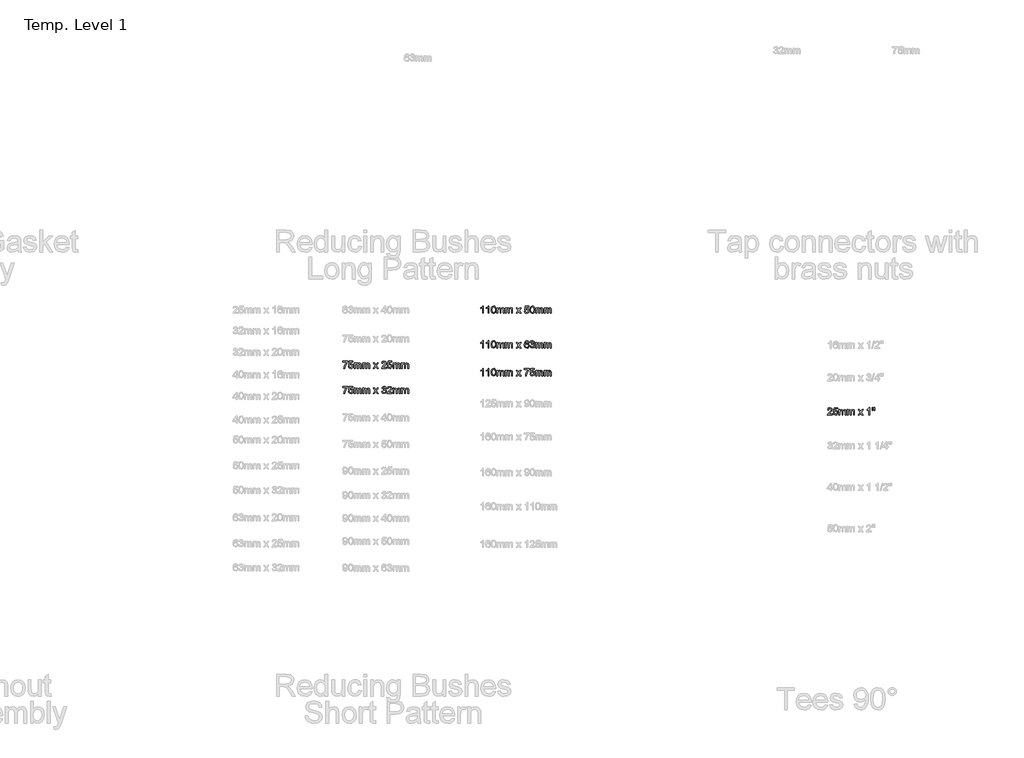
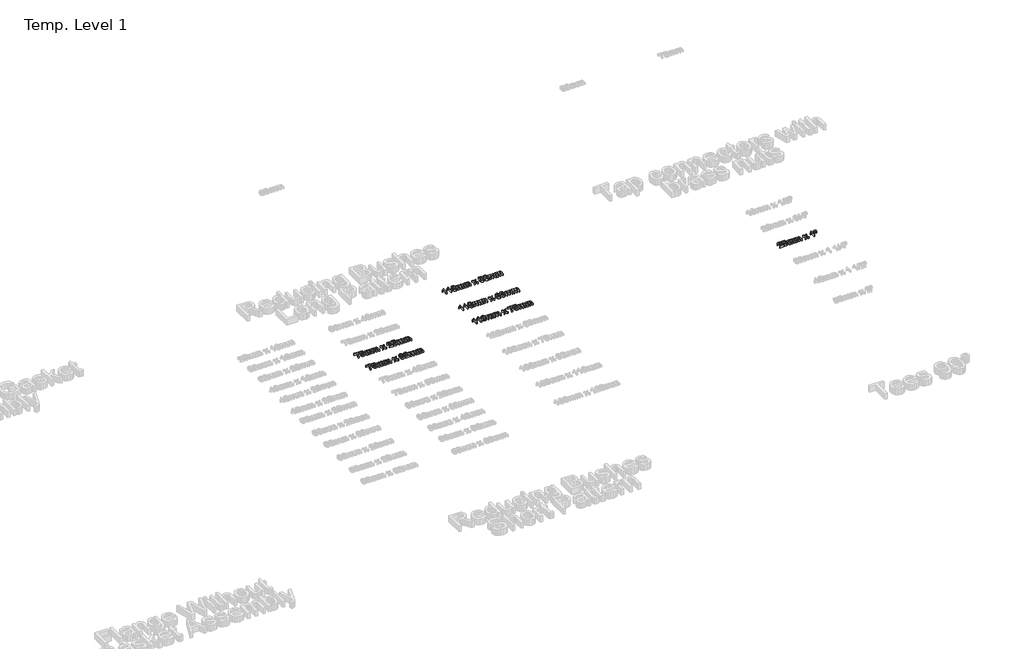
# One storey, part 48 of 62: 6 proxies.
"""IFC4 building model written with IfcOpenShell, lengths in millimetres."""

from ifc_helpers import new_model, si_unit, origin, origin_with_axes, place, context, project, spatial, polyline, outline, extrude, element, save

model = new_model("IFC4")

# Units and contexts
model_context = context("Model", 3, world=origin())
ifc_project = project(units=[si_unit("LENGTHUNIT", "METRE", prefix="MILLI")], contexts=[model_context])

# Site, building, storey
site = spatial("IfcSite", under=ifc_project)
building = spatial("IfcBuilding", under=site)
storey = spatial("IfcBuildingStorey", under=building, Name="Temp. Level 1", Elevation=0.0)

# Proxies
placement = place(None, origin())
element("IfcBuildingElementProxy", 1, Name="50mm Arial", ObjectType="50mm Arial", at=placement, inside=storey, context=model_context, shape_type="SweptSolid", body=[
    extrude(outline(polyline([(24079.3793416, -4723.2165118), (24079.3793416, -4717.0626657), (24111.6870339, -4717.0626657), (24111.6870339, -4722.0386272), (24102.5223705, -4735.2778099), (24095.5091493, -4752.1468003), (24093.2254955, -4765.5242041), (24087.0716493, -4765.5242041), (24089.5175628, -4751.6419926), (24096.2303032, -4735.9508868), (24105.5331878, -4723.2165118), (24079.3793416, -4723.2165118)])), origin_with_axes(), (0.0, 0.0, 1.0), 15.0),
    extrude(outline(polyline([(24117.0716493, -4752.447281), (24123.2254955, -4751.6780503), (24126.326457, -4758.0181945), (24132.7567455, -4760.1395887), (24140.4730916, -4757.1888676), (24143.2254955, -4749.3583387), (24140.6473705, -4742.0506464), (24132.8528993, -4739.370358), (24127.4502551, -4740.4400695), (24123.9947262, -4743.2165118), (24117.8408801, -4742.447281), (24123.2254955, -4717.0626657), (24147.0716493, -4717.0626657), (24147.0716493, -4723.2165118), (24128.201457, -4723.2165118), (24125.5692455, -4736.7742041), (24134.5716493, -4733.2165118), (24145.0944859, -4737.6275695), (24149.3793416, -4748.9737233), (24145.5211685, -4760.3919926), (24139.9803032, -4764.8180743), (24132.732707, -4766.2934349), (24121.873332, -4762.5013676), (24117.0716493, -4752.447281)])), origin_with_axes(), (0.0, 0.0, 1.0), 15.0),
    extrude(outline(polyline([(24156.3024185, -4765.5242041), (24156.3024185, -4729.370358), (24162.4562647, -4729.370358), (24162.4562647, -4735.3198772), (24166.6870339, -4730.4460791), (24172.7086685, -4728.6011272), (24178.8745339, -4730.4821368), (24182.263957, -4735.7525695), (24187.0656397, -4730.3889878), (24193.1293416, -4728.6011272), (24201.1762166, -4731.5758868), (24203.9947262, -4740.7405503), (24203.9947262, -4765.5242041), (24197.8408801, -4765.5242041), (24197.8408801, -4743.384781), (24197.2699666, -4738.2465599), (24195.2026589, -4735.7165118), (24191.6870339, -4734.7549733), (24185.6353512, -4737.2189157), (24183.2254955, -4745.1155503), (24183.2254955, -4765.5242041), (24177.0716493, -4765.5242041), (24177.0716493, -4742.6996849), (24175.6473705, -4736.7381464), (24170.9778993, -4734.7549733), (24166.4226109, -4736.0770887), (24163.3937647, -4739.947281), (24162.4562647, -4747.291031), (24162.4562647, -4765.5242041), (24156.3024185, -4765.5242041)])), origin_with_axes(), (0.0, 0.0, 1.0), 15.0),
    extrude(outline(polyline([(24213.2254955, -4765.5242041), (24213.2254955, -4729.370358), (24219.3793416, -4729.370358), (24219.3793416, -4735.3198772), (24223.6101109, -4730.4460791), (24229.6317455, -4728.6011272), (24235.7976109, -4730.4821368), (24239.1870339, -4735.7525695), (24243.9887166, -4730.3889878), (24250.0524185, -4728.6011272), (24258.0992935, -4731.5758868), (24260.9178032, -4740.7405503), (24260.9178032, -4765.5242041), (24254.763957, -4765.5242041), (24254.763957, -4743.384781), (24254.1930435, -4738.2465599), (24252.1257359, -4735.7165118), (24248.6101109, -4734.7549733), (24242.5584282, -4737.2189157), (24240.1485724, -4745.1155503), (24240.1485724, -4765.5242041), (24233.9947262, -4765.5242041), (24233.9947262, -4742.6996849), (24232.5704474, -4736.7381464), (24227.9009762, -4734.7549733), (24223.3456878, -4736.0770887), (24220.3168416, -4739.947281), (24219.3793416, -4747.291031), (24219.3793416, -4765.5242041), (24213.2254955, -4765.5242041)])), origin_with_axes(), (0.0, 0.0, 1.0), 15.0),
    extrude(outline(polyline([(24285.5331878, -4765.5242041), (24298.6822262, -4747.3511272), (24286.3024185, -4729.370358), (24293.7062647, -4729.370358), (24299.6798224, -4738.0242041), (24302.4682839, -4742.1107426), (24304.8841493, -4738.7693964), (24311.6870339, -4729.370358), (24319.0908801, -4729.370358), (24306.0860724, -4747.3511272), (24318.6101109, -4765.5242041), (24311.2062647, -4765.5242041), (24303.670207, -4754.5987233), (24302.2879955, -4752.603531), (24292.9370339, -4765.5242041), (24285.5331878, -4765.5242041)])), origin_with_axes(), (0.0, 0.0, 1.0), 15.0),
    extrude(outline(polyline([(24373.2254955, -4759.370358), (24373.2254955, -4765.5242041), (24340.9178032, -4765.5242041), (24341.5788609, -4761.2814157), (24345.3168416, -4754.7489637), (24353.0211685, -4747.6155503), (24363.6461685, -4737.3631464), (24366.3024185, -4730.3919926), (24363.7964089, -4724.7489637), (24357.2519378, -4722.447281), (24350.4310243, -4724.6948772), (24347.8408801, -4730.9088195), (24341.6870339, -4730.1395887), (24346.404582, -4719.839108), (24357.3841493, -4716.2934349), (24368.3997743, -4720.2357426), (24372.4562647, -4730.0193964), (24371.3625147, -4735.854733), (24367.7266974, -4741.8883868), (24358.9105916, -4750.3198772), (24351.8312647, -4756.2393483), (24349.0548224, -4759.370358), (24373.2254955, -4759.370358)])), origin_with_axes(), (0.0, 0.0, 1.0), 15.0),
    extrude(outline(polyline([(24379.3793416, -4752.447281), (24385.5331878, -4751.6780503), (24388.6341493, -4758.0181945), (24395.0644378, -4760.1395887), (24402.7807839, -4757.1888676), (24405.5331878, -4749.3583387), (24402.9550628, -4742.0506464), (24395.1605916, -4739.370358), (24389.7579474, -4740.4400695), (24386.3024185, -4743.2165118), (24380.1485724, -4742.447281), (24385.5331878, -4717.0626657), (24409.3793416, -4717.0626657), (24409.3793416, -4723.2165118), (24390.5091493, -4723.2165118), (24387.8769378, -4736.7742041), (24396.8793416, -4733.2165118), (24407.4021782, -4737.6275695), (24411.6870339, -4748.9737233), (24407.8288609, -4760.3919926), (24402.2879955, -4764.8180743), (24395.0403993, -4766.2934349), (24384.1810243, -4762.5013676), (24379.3793416, -4752.447281)])), origin_with_axes(), (0.0, 0.0, 1.0), 15.0),
    extrude(outline(polyline([(24418.6101109, -4765.5242041), (24418.6101109, -4729.370358), (24424.763957, -4729.370358), (24424.763957, -4735.3198772), (24428.9947262, -4730.4460791), (24435.0163609, -4728.6011272), (24441.1822262, -4730.4821368), (24444.5716493, -4735.7525695), (24449.373332, -4730.3889878), (24455.4370339, -4728.6011272), (24463.4839089, -4731.5758868), (24466.3024185, -4740.7405503), (24466.3024185, -4765.5242041), (24460.1485724, -4765.5242041), (24460.1485724, -4743.384781), (24459.5776589, -4738.2465599), (24457.5103512, -4735.7165118), (24453.9947262, -4734.7549733), (24447.9430435, -4737.2189157), (24445.5331878, -4745.1155503), (24445.5331878, -4765.5242041), (24439.3793416, -4765.5242041), (24439.3793416, -4742.6996849), (24437.9550628, -4736.7381464), (24433.2855916, -4734.7549733), (24428.7303032, -4736.0770887), (24425.701457, -4739.947281), (24424.763957, -4747.291031), (24424.763957, -4765.5242041), (24418.6101109, -4765.5242041)])), origin_with_axes(), (0.0, 0.0, 1.0), 15.0),
    extrude(outline(polyline([(24475.5331878, -4765.5242041), (24475.5331878, -4729.370358), (24481.6870339, -4729.370358), (24481.6870339, -4735.3198772), (24485.9178032, -4730.4460791), (24491.9394378, -4728.6011272), (24498.1053032, -4730.4821368), (24501.4947262, -4735.7525695), (24506.2964089, -4730.3889878), (24512.3601109, -4728.6011272), (24520.4069859, -4731.5758868), (24523.2254955, -4740.7405503), (24523.2254955, -4765.5242041), (24517.0716493, -4765.5242041), (24517.0716493, -4743.384781), (24516.5007359, -4738.2465599), (24514.4334282, -4735.7165118), (24510.9178032, -4734.7549733), (24504.8661205, -4737.2189157), (24502.4562647, -4745.1155503), (24502.4562647, -4765.5242041), (24496.3024185, -4765.5242041), (24496.3024185, -4742.6996849), (24494.8781397, -4736.7381464), (24490.2086685, -4734.7549733), (24485.6533801, -4736.0770887), (24482.6245339, -4739.947281), (24481.6870339, -4747.291031), (24481.6870339, -4765.5242041), (24475.5331878, -4765.5242041)])), origin_with_axes(), (0.0, 0.0, 1.0), 15.0),
])
element("IfcBuildingElementProxy", 2, Name="50mm Arial", ObjectType="50mm Arial", at=placement, inside=storey, context=model_context, shape_type="SweptSolid", body=[
    extrude(outline(polyline([(24079.3793416, -4893.2165118), (24079.3793416, -4887.0626657), (24111.6870339, -4887.0626657), (24111.6870339, -4892.0386272), (24102.5223705, -4905.2778099), (24095.5091493, -4922.1468003), (24093.2254955, -4935.5242041), (24087.0716493, -4935.5242041), (24089.5175628, -4921.6419926), (24096.2303032, -4905.9508868), (24105.5331878, -4893.2165118), (24079.3793416, -4893.2165118)])), origin_with_axes(), (0.0, 0.0, 1.0), 15.0),
    extrude(outline(polyline([(24117.0716493, -4922.447281), (24123.2254955, -4921.6780503), (24126.326457, -4928.0181945), (24132.7567455, -4930.1395887), (24140.4730916, -4927.1888676), (24143.2254955, -4919.3583387), (24140.6473705, -4912.0506464), (24132.8528993, -4909.370358), (24127.4502551, -4910.4400695), (24123.9947262, -4913.2165118), (24117.8408801, -4912.447281), (24123.2254955, -4887.0626657), (24147.0716493, -4887.0626657), (24147.0716493, -4893.2165118), (24128.201457, -4893.2165118), (24125.5692455, -4906.7742041), (24134.5716493, -4903.2165118), (24145.0944859, -4907.6275695), (24149.3793416, -4918.9737233), (24145.5211685, -4930.3919926), (24139.9803032, -4934.8180743), (24132.732707, -4936.2934349), (24121.873332, -4932.5013676), (24117.0716493, -4922.447281)])), origin_with_axes(), (0.0, 0.0, 1.0), 15.0),
    extrude(outline(polyline([(24156.3024185, -4935.5242041), (24156.3024185, -4899.370358), (24162.4562647, -4899.370358), (24162.4562647, -4905.3198772), (24166.6870339, -4900.4460791), (24172.7086685, -4898.6011272), (24178.8745339, -4900.4821368), (24182.263957, -4905.7525695), (24187.0656397, -4900.3889878), (24193.1293416, -4898.6011272), (24201.1762166, -4901.5758868), (24203.9947262, -4910.7405503), (24203.9947262, -4935.5242041), (24197.8408801, -4935.5242041), (24197.8408801, -4913.384781), (24197.2699666, -4908.2465599), (24195.2026589, -4905.7165118), (24191.6870339, -4904.7549733), (24185.6353512, -4907.2189157), (24183.2254955, -4915.1155503), (24183.2254955, -4935.5242041), (24177.0716493, -4935.5242041), (24177.0716493, -4912.6996849), (24175.6473705, -4906.7381464), (24170.9778993, -4904.7549733), (24166.4226109, -4906.0770887), (24163.3937647, -4909.947281), (24162.4562647, -4917.291031), (24162.4562647, -4935.5242041), (24156.3024185, -4935.5242041)])), origin_with_axes(), (0.0, 0.0, 1.0), 15.0),
    extrude(outline(polyline([(24213.2254955, -4935.5242041), (24213.2254955, -4899.370358), (24219.3793416, -4899.370358), (24219.3793416, -4905.3198772), (24223.6101109, -4900.4460791), (24229.6317455, -4898.6011272), (24235.7976109, -4900.4821368), (24239.1870339, -4905.7525695), (24243.9887166, -4900.3889878), (24250.0524185, -4898.6011272), (24258.0992935, -4901.5758868), (24260.9178032, -4910.7405503), (24260.9178032, -4935.5242041), (24254.763957, -4935.5242041), (24254.763957, -4913.384781), (24254.1930435, -4908.2465599), (24252.1257359, -4905.7165118), (24248.6101109, -4904.7549733), (24242.5584282, -4907.2189157), (24240.1485724, -4915.1155503), (24240.1485724, -4935.5242041), (24233.9947262, -4935.5242041), (24233.9947262, -4912.6996849), (24232.5704474, -4906.7381464), (24227.9009762, -4904.7549733), (24223.3456878, -4906.0770887), (24220.3168416, -4909.947281), (24219.3793416, -4917.291031), (24219.3793416, -4935.5242041), (24213.2254955, -4935.5242041)])), origin_with_axes(), (0.0, 0.0, 1.0), 15.0),
    extrude(outline(polyline([(24285.5331878, -4935.5242041), (24298.6822262, -4917.3511272), (24286.3024185, -4899.370358), (24293.7062647, -4899.370358), (24299.6798224, -4908.0242041), (24302.4682839, -4912.1107426), (24304.8841493, -4908.7693964), (24311.6870339, -4899.370358), (24319.0908801, -4899.370358), (24306.0860724, -4917.3511272), (24318.6101109, -4935.5242041), (24311.2062647, -4935.5242041), (24303.670207, -4924.5987233), (24302.2879955, -4922.603531), (24292.9370339, -4935.5242041), (24285.5331878, -4935.5242041)])), origin_with_axes(), (0.0, 0.0, 1.0), 15.0),
    extrude(outline(polyline([(24341.6870339, -4922.447281), (24347.8408801, -4921.6780503), (24351.2363128, -4928.1564157), (24357.5884762, -4930.1395887), (24365.0644378, -4927.4112233), (24367.8408801, -4920.6564157), (24365.0884762, -4914.292233), (24358.0932839, -4911.7742041), (24353.7783801, -4912.447281), (24354.4634762, -4906.2934349), (24362.4322262, -4904.5987233), (24365.5331878, -4899.166031), (24363.2855916, -4894.3523291), (24357.4923224, -4892.447281), (24351.6269378, -4894.370358), (24348.6101109, -4900.1395887), (24342.4562647, -4899.370358), (24347.4923224, -4889.7189157), (24357.2759762, -4886.2934349), (24364.6978512, -4887.9821368), (24369.8901589, -4892.5975214), (24371.6870339, -4898.8054541), (24369.9803032, -4904.478531), (24364.9322262, -4908.5530503), (24371.638957, -4912.759781), (24373.9947262, -4920.7645887), (24369.2831878, -4931.7742041), (24357.3721301, -4936.2934349), (24346.5788609, -4932.4352618), (24341.6870339, -4922.447281)])), origin_with_axes(), (0.0, 0.0, 1.0), 15.0),
    extrude(outline(polyline([(24410.9178032, -4929.370358), (24410.9178032, -4935.5242041), (24378.6101109, -4935.5242041), (24379.2711685, -4931.2814157), (24383.0091493, -4924.7489637), (24390.7134762, -4917.6155503), (24401.3384762, -4907.3631464), (24403.9947262, -4900.3919926), (24401.4887166, -4894.7489637), (24394.9442455, -4892.447281), (24388.123332, -4894.6948772), (24385.5331878, -4900.9088195), (24379.3793416, -4900.1395887), (24384.0968897, -4889.839108), (24395.076457, -4886.2934349), (24406.092082, -4890.2357426), (24410.1485724, -4900.0193964), (24409.0548224, -4905.854733), (24405.4190051, -4911.8883868), (24396.6028993, -4920.3198772), (24389.5235724, -4926.2393483), (24386.7471301, -4929.370358), (24410.9178032, -4929.370358)])), origin_with_axes(), (0.0, 0.0, 1.0), 15.0),
    extrude(outline(polyline([(24418.6101109, -4935.5242041), (24418.6101109, -4899.370358), (24424.763957, -4899.370358), (24424.763957, -4905.3198772), (24428.9947262, -4900.4460791), (24435.0163609, -4898.6011272), (24441.1822262, -4900.4821368), (24444.5716493, -4905.7525695), (24449.373332, -4900.3889878), (24455.4370339, -4898.6011272), (24463.4839089, -4901.5758868), (24466.3024185, -4910.7405503), (24466.3024185, -4935.5242041), (24460.1485724, -4935.5242041), (24460.1485724, -4913.384781), (24459.5776589, -4908.2465599), (24457.5103512, -4905.7165118), (24453.9947262, -4904.7549733), (24447.9430435, -4907.2189157), (24445.5331878, -4915.1155503), (24445.5331878, -4935.5242041), (24439.3793416, -4935.5242041), (24439.3793416, -4912.6996849), (24437.9550628, -4906.7381464), (24433.2855916, -4904.7549733), (24428.7303032, -4906.0770887), (24425.701457, -4909.947281), (24424.763957, -4917.291031), (24424.763957, -4935.5242041), (24418.6101109, -4935.5242041)])), origin_with_axes(), (0.0, 0.0, 1.0), 15.0),
    extrude(outline(polyline([(24475.5331878, -4935.5242041), (24475.5331878, -4899.370358), (24481.6870339, -4899.370358), (24481.6870339, -4905.3198772), (24485.9178032, -4900.4460791), (24491.9394378, -4898.6011272), (24498.1053032, -4900.4821368), (24501.4947262, -4905.7525695), (24506.2964089, -4900.3889878), (24512.3601109, -4898.6011272), (24520.4069859, -4901.5758868), (24523.2254955, -4910.7405503), (24523.2254955, -4935.5242041), (24517.0716493, -4935.5242041), (24517.0716493, -4913.384781), (24516.5007359, -4908.2465599), (24514.4334282, -4905.7165118), (24510.9178032, -4904.7549733), (24504.8661205, -4907.2189157), (24502.4562647, -4915.1155503), (24502.4562647, -4935.5242041), (24496.3024185, -4935.5242041), (24496.3024185, -4912.6996849), (24494.8781397, -4906.7381464), (24490.2086685, -4904.7549733), (24485.6533801, -4906.0770887), (24482.6245339, -4909.947281), (24481.6870339, -4917.291031), (24481.6870339, -4935.5242041), (24475.5331878, -4935.5242041)])), origin_with_axes(), (0.0, 0.0, 1.0), 15.0),
])
element("IfcBuildingElementProxy", 3, Name="50mm Arial", ObjectType="50mm Arial", at=placement, inside=storey, context=model_context, shape_type="SweptSolid", body=[
    extrude(outline(polyline([(25028.6101109, -4393.0242041), (25022.4562647, -4393.0242041), (25022.4562647, -4354.6588195), (25016.6269378, -4358.8114637), (25010.1485724, -4361.9184349), (25010.1485724, -4356.1011272), (25019.1690051, -4350.3439157), (25024.6437647, -4343.7934349), (25028.6101109, -4343.7934349), (25028.6101109, -4393.0242041)])), origin_with_axes(), (0.0, 0.0, 1.0), 15.0),
    extrude(outline(polyline([(25066.3024185, -4393.0242041), (25060.1485724, -4393.0242041), (25060.1485724, -4354.6588195), (25054.3192455, -4358.8114637), (25047.8408801, -4361.9184349), (25047.8408801, -4356.1011272), (25056.8613128, -4350.3439157), (25062.3360724, -4343.7934349), (25066.3024185, -4343.7934349), (25066.3024185, -4393.0242041)])), origin_with_axes(), (0.0, 0.0, 1.0), 15.0),
    extrude(outline(polyline([(25080.9178032, -4368.8054541), (25082.7266974, -4354.6407907), (25088.0992935, -4346.4737233), (25097.0716493, -4343.7934349), (25104.2591493, -4345.3799733), (25109.2230916, -4349.9532907), (25112.107707, -4357.2369445), (25113.2254955, -4368.8054541), (25111.4346301, -4382.9100214), (25106.0800628, -4391.0951176), (25097.0716493, -4393.7934349), (25085.8216493, -4389.1059349), (25082.1437647, -4380.7796128), (25080.9178032, -4368.8054541)]), holes=[polyline([(25087.0716493, -4368.7934349), (25089.9562647, -4384.0758868), (25097.0716493, -4387.6395887), (25104.1870339, -4384.0638676), (25107.0716493, -4368.7934349), (25104.2831878, -4353.6852618), (25096.9995339, -4349.947281), (25090.0524185, -4353.2405503), (25087.0716493, -4368.7934349)])]), origin_with_axes(), (0.0, 0.0, 1.0), 15.0),
    extrude(outline(polyline([(25120.1485724, -4393.0242041), (25120.1485724, -4356.870358), (25126.3024185, -4356.870358), (25126.3024185, -4362.8198772), (25130.5331878, -4357.9460791), (25136.5548224, -4356.1011272), (25142.7206878, -4357.9821368), (25146.1101109, -4363.2525695), (25150.9117935, -4357.8889878), (25156.9754955, -4356.1011272), (25165.0223705, -4359.0758868), (25167.8408801, -4368.2405503), (25167.8408801, -4393.0242041), (25161.6870339, -4393.0242041), (25161.6870339, -4370.884781), (25161.1161205, -4365.7465599), (25159.0488128, -4363.2165118), (25155.5331878, -4362.2549733), (25149.4815051, -4364.7189157), (25147.0716493, -4372.6155503), (25147.0716493, -4393.0242041), (25140.9178032, -4393.0242041), (25140.9178032, -4370.1996849), (25139.4935243, -4364.2381464), (25134.8240532, -4362.2549733), (25130.2687647, -4363.5770887), (25127.2399185, -4367.447281), (25126.3024185, -4374.791031), (25126.3024185, -4393.0242041), (25120.1485724, -4393.0242041)])), origin_with_axes(), (0.0, 0.0, 1.0), 15.0),
    extrude(outline(polyline([(25177.0716493, -4393.0242041), (25177.0716493, -4356.870358), (25183.2254955, -4356.870358), (25183.2254955, -4362.8198772), (25187.4562647, -4357.9460791), (25193.4778993, -4356.1011272), (25199.6437647, -4357.9821368), (25203.0331878, -4363.2525695), (25207.8348705, -4357.8889878), (25213.8985724, -4356.1011272), (25221.9454474, -4359.0758868), (25224.763957, -4368.2405503), (25224.763957, -4393.0242041), (25218.6101109, -4393.0242041), (25218.6101109, -4370.884781), (25218.0391974, -4365.7465599), (25215.9718897, -4363.2165118), (25212.4562647, -4362.2549733), (25206.404582, -4364.7189157), (25203.9947262, -4372.6155503), (25203.9947262, -4393.0242041), (25197.8408801, -4393.0242041), (25197.8408801, -4370.1996849), (25196.4166012, -4364.2381464), (25191.7471301, -4362.2549733), (25187.1918416, -4363.5770887), (25184.1629955, -4367.447281), (25183.2254955, -4374.791031), (25183.2254955, -4393.0242041), (25177.0716493, -4393.0242041)])), origin_with_axes(), (0.0, 0.0, 1.0), 15.0),
    extrude(outline(polyline([(25249.3793416, -4393.0242041), (25262.5283801, -4374.8511272), (25250.1485724, -4356.870358), (25257.5524185, -4356.870358), (25263.5259762, -4365.5242041), (25266.3144378, -4369.6107426), (25268.7303032, -4366.2693964), (25275.5331878, -4356.870358), (25282.9370339, -4356.870358), (25269.9322262, -4374.8511272), (25282.4562647, -4393.0242041), (25275.0524185, -4393.0242041), (25267.5163609, -4382.0987233), (25266.1341493, -4380.103531), (25256.7831878, -4393.0242041), (25249.3793416, -4393.0242041)])), origin_with_axes(), (0.0, 0.0, 1.0), 15.0),
    extrude(outline(polyline([(25305.5331878, -4379.947281), (25311.6870339, -4379.1780503), (25314.7879955, -4385.5181945), (25321.2182839, -4387.6395887), (25328.9346301, -4384.6888676), (25331.6870339, -4376.8583387), (25329.1089089, -4369.5506464), (25321.3144378, -4366.870358), (25315.9117935, -4367.9400695), (25312.4562647, -4370.7165118), (25306.3024185, -4369.947281), (25311.6870339, -4344.5626657), (25335.5331878, -4344.5626657), (25335.5331878, -4350.7165118), (25316.6629955, -4350.7165118), (25314.0307839, -4364.2742041), (25323.0331878, -4360.7165118), (25333.5560243, -4365.1275695), (25337.8408801, -4376.4737233), (25333.982707, -4387.8919926), (25328.4418416, -4392.3180743), (25321.1942455, -4393.7934349), (25310.3348705, -4390.0013676), (25305.5331878, -4379.947281)])), origin_with_axes(), (0.0, 0.0, 1.0), 15.0),
    extrude(outline(polyline([(25343.2254955, -4368.8054541), (25345.0343897, -4354.6407907), (25350.4069859, -4346.4737233), (25359.3793416, -4343.7934349), (25366.5668416, -4345.3799733), (25371.5307839, -4349.9532907), (25374.4153993, -4357.2369445), (25375.5331878, -4368.8054541), (25373.7423224, -4382.9100214), (25368.3877551, -4391.0951176), (25359.3793416, -4393.7934349), (25348.1293416, -4389.1059349), (25344.451457, -4380.7796128), (25343.2254955, -4368.8054541)]), holes=[polyline([(25349.3793416, -4368.7934349), (25352.263957, -4384.0758868), (25359.3793416, -4387.6395887), (25366.4947262, -4384.0638676), (25369.3793416, -4368.7934349), (25366.5908801, -4353.6852618), (25359.3072262, -4349.947281), (25352.3601109, -4353.2405503), (25349.3793416, -4368.7934349)])]), origin_with_axes(), (0.0, 0.0, 1.0), 15.0),
    extrude(outline(polyline([(25382.4562647, -4393.0242041), (25382.4562647, -4356.870358), (25388.6101109, -4356.870358), (25388.6101109, -4362.8198772), (25392.8408801, -4357.9460791), (25398.8625147, -4356.1011272), (25405.0283801, -4357.9821368), (25408.4178032, -4363.2525695), (25413.2194859, -4357.8889878), (25419.2831878, -4356.1011272), (25427.3300628, -4359.0758868), (25430.1485724, -4368.2405503), (25430.1485724, -4393.0242041), (25423.9947262, -4393.0242041), (25423.9947262, -4370.884781), (25423.4238128, -4365.7465599), (25421.3565051, -4363.2165118), (25417.8408801, -4362.2549733), (25411.7891974, -4364.7189157), (25409.3793416, -4372.6155503), (25409.3793416, -4393.0242041), (25403.2254955, -4393.0242041), (25403.2254955, -4370.1996849), (25401.8012166, -4364.2381464), (25397.1317455, -4362.2549733), (25392.576457, -4363.5770887), (25389.5476109, -4367.447281), (25388.6101109, -4374.791031), (25388.6101109, -4393.0242041), (25382.4562647, -4393.0242041)])), origin_with_axes(), (0.0, 0.0, 1.0), 15.0),
    extrude(outline(polyline([(25439.3793416, -4393.0242041), (25439.3793416, -4356.870358), (25445.5331878, -4356.870358), (25445.5331878, -4362.8198772), (25449.763957, -4357.9460791), (25455.7855916, -4356.1011272), (25461.951457, -4357.9821368), (25465.3408801, -4363.2525695), (25470.1425628, -4357.8889878), (25476.2062647, -4356.1011272), (25484.2531397, -4359.0758868), (25487.0716493, -4368.2405503), (25487.0716493, -4393.0242041), (25480.9178032, -4393.0242041), (25480.9178032, -4370.884781), (25480.3468897, -4365.7465599), (25478.279582, -4363.2165118), (25474.763957, -4362.2549733), (25468.7122743, -4364.7189157), (25466.3024185, -4372.6155503), (25466.3024185, -4393.0242041), (25460.1485724, -4393.0242041), (25460.1485724, -4370.1996849), (25458.7242935, -4364.2381464), (25454.0548224, -4362.2549733), (25449.4995339, -4363.5770887), (25446.4706878, -4367.447281), (25445.5331878, -4374.791031), (25445.5331878, -4393.0242041), (25439.3793416, -4393.0242041)])), origin_with_axes(), (0.0, 0.0, 1.0), 15.0),
])
element("IfcBuildingElementProxy", 4, Name="50mm Arial", ObjectType="50mm Arial", at=placement, inside=storey, context=model_context, shape_type="SweptSolid", body=[
    extrude(outline(polyline([(25028.6101109, -4628.0242041), (25022.4562647, -4628.0242041), (25022.4562647, -4589.6588195), (25016.6269378, -4593.8114637), (25010.1485724, -4596.9184349), (25010.1485724, -4591.1011272), (25019.1690051, -4585.3439157), (25024.6437647, -4578.7934349), (25028.6101109, -4578.7934349), (25028.6101109, -4628.0242041)])), origin_with_axes(), (0.0, 0.0, 1.0), 15.0),
    extrude(outline(polyline([(25066.3024185, -4628.0242041), (25060.1485724, -4628.0242041), (25060.1485724, -4589.6588195), (25054.3192455, -4593.8114637), (25047.8408801, -4596.9184349), (25047.8408801, -4591.1011272), (25056.8613128, -4585.3439157), (25062.3360724, -4578.7934349), (25066.3024185, -4578.7934349), (25066.3024185, -4628.0242041)])), origin_with_axes(), (0.0, 0.0, 1.0), 15.0),
    extrude(outline(polyline([(25080.9178032, -4603.8054541), (25082.7266974, -4589.6407907), (25088.0992935, -4581.4737233), (25097.0716493, -4578.7934349), (25104.2591493, -4580.3799733), (25109.2230916, -4584.9532907), (25112.107707, -4592.2369445), (25113.2254955, -4603.8054541), (25111.4346301, -4617.9100214), (25106.0800628, -4626.0951176), (25097.0716493, -4628.7934349), (25085.8216493, -4624.1059349), (25082.1437647, -4615.7796128), (25080.9178032, -4603.8054541)]), holes=[polyline([(25087.0716493, -4603.7934349), (25089.9562647, -4619.0758868), (25097.0716493, -4622.6395887), (25104.1870339, -4619.0638676), (25107.0716493, -4603.7934349), (25104.2831878, -4588.6852618), (25096.9995339, -4584.947281), (25090.0524185, -4588.2405503), (25087.0716493, -4603.7934349)])]), origin_with_axes(), (0.0, 0.0, 1.0), 15.0),
    extrude(outline(polyline([(25120.1485724, -4628.0242041), (25120.1485724, -4591.870358), (25126.3024185, -4591.870358), (25126.3024185, -4597.8198772), (25130.5331878, -4592.9460791), (25136.5548224, -4591.1011272), (25142.7206878, -4592.9821368), (25146.1101109, -4598.2525695), (25150.9117935, -4592.8889878), (25156.9754955, -4591.1011272), (25165.0223705, -4594.0758868), (25167.8408801, -4603.2405503), (25167.8408801, -4628.0242041), (25161.6870339, -4628.0242041), (25161.6870339, -4605.884781), (25161.1161205, -4600.7465599), (25159.0488128, -4598.2165118), (25155.5331878, -4597.2549733), (25149.4815051, -4599.7189157), (25147.0716493, -4607.6155503), (25147.0716493, -4628.0242041), (25140.9178032, -4628.0242041), (25140.9178032, -4605.1996849), (25139.4935243, -4599.2381464), (25134.8240532, -4597.2549733), (25130.2687647, -4598.5770887), (25127.2399185, -4602.447281), (25126.3024185, -4609.791031), (25126.3024185, -4628.0242041), (25120.1485724, -4628.0242041)])), origin_with_axes(), (0.0, 0.0, 1.0), 15.0),
    extrude(outline(polyline([(25177.0716493, -4628.0242041), (25177.0716493, -4591.870358), (25183.2254955, -4591.870358), (25183.2254955, -4597.8198772), (25187.4562647, -4592.9460791), (25193.4778993, -4591.1011272), (25199.6437647, -4592.9821368), (25203.0331878, -4598.2525695), (25207.8348705, -4592.8889878), (25213.8985724, -4591.1011272), (25221.9454474, -4594.0758868), (25224.763957, -4603.2405503), (25224.763957, -4628.0242041), (25218.6101109, -4628.0242041), (25218.6101109, -4605.884781), (25218.0391974, -4600.7465599), (25215.9718897, -4598.2165118), (25212.4562647, -4597.2549733), (25206.404582, -4599.7189157), (25203.9947262, -4607.6155503), (25203.9947262, -4628.0242041), (25197.8408801, -4628.0242041), (25197.8408801, -4605.1996849), (25196.4166012, -4599.2381464), (25191.7471301, -4597.2549733), (25187.1918416, -4598.5770887), (25184.1629955, -4602.447281), (25183.2254955, -4609.791031), (25183.2254955, -4628.0242041), (25177.0716493, -4628.0242041)])), origin_with_axes(), (0.0, 0.0, 1.0), 15.0),
    extrude(outline(polyline([(25249.3793416, -4628.0242041), (25262.5283801, -4609.8511272), (25250.1485724, -4591.870358), (25257.5524185, -4591.870358), (25263.5259762, -4600.5242041), (25266.3144378, -4604.6107426), (25268.7303032, -4601.2693964), (25275.5331878, -4591.870358), (25282.9370339, -4591.870358), (25269.9322262, -4609.8511272), (25282.4562647, -4628.0242041), (25275.0524185, -4628.0242041), (25267.5163609, -4617.0987233), (25266.1341493, -4615.103531), (25256.7831878, -4628.0242041), (25249.3793416, -4628.0242041)])), origin_with_axes(), (0.0, 0.0, 1.0), 15.0),
    extrude(outline(polyline([(25337.0716493, -4591.870358), (25330.9178032, -4592.6395887), (25328.5860724, -4587.5073772), (25322.420207, -4584.947281), (25316.8673224, -4586.4376657), (25312.6666012, -4592.0326176), (25310.9178032, -4603.0001657), (25316.3444859, -4598.0903099), (25323.0692455, -4596.4857426), (25333.5259762, -4600.8727618), (25337.8408801, -4612.2068964), (25335.8096301, -4620.698483), (25330.2206878, -4626.7080983), (25322.1557839, -4628.7934349), (25309.6137166, -4623.2645887), (25305.9763969, -4615.9448772), (25304.763957, -4605.0434349), (25306.1101109, -4592.7868243), (25310.1485724, -4584.4064157), (25315.6623945, -4580.1966801), (25322.8048224, -4578.7934349), (25332.5283801, -4582.2669926), (25337.0716493, -4591.870358)]), holes=[polyline([(25310.9178032, -4612.1107426), (25312.342082, -4617.4412714), (25316.1281397, -4621.3114637), (25321.6750147, -4622.6395887), (25328.9286205, -4619.8871849), (25331.6870339, -4612.4112233), (25328.9646782, -4605.2537714), (25321.4226109, -4602.6395887), (25313.9766974, -4605.2537714), (25310.9178032, -4612.1107426)])]), origin_with_axes(), (0.0, 0.0, 1.0), 15.0),
    extrude(outline(polyline([(25343.2254955, -4614.947281), (25349.3793416, -4614.1780503), (25352.7747743, -4620.6564157), (25359.1269378, -4622.6395887), (25366.6028993, -4619.9112233), (25369.3793416, -4613.1564157), (25366.6269378, -4606.792233), (25359.6317455, -4604.2742041), (25355.3168416, -4604.947281), (25356.0019378, -4598.7934349), (25363.9706878, -4597.0987233), (25367.0716493, -4591.666031), (25364.8240532, -4586.8523291), (25359.0307839, -4584.947281), (25353.1653993, -4586.870358), (25350.1485724, -4592.6395887), (25343.9947262, -4591.870358), (25349.0307839, -4582.2189157), (25358.8144378, -4578.7934349), (25366.2363128, -4580.4821368), (25371.4286205, -4585.0975214), (25373.2254955, -4591.3054541), (25371.5187647, -4596.978531), (25366.4706878, -4601.0530503), (25373.1774185, -4605.259781), (25375.5331878, -4613.2645887), (25370.8216493, -4624.2742041), (25358.9105916, -4628.7934349), (25348.1173224, -4624.9352618), (25343.2254955, -4614.947281)])), origin_with_axes(), (0.0, 0.0, 1.0), 15.0),
    extrude(outline(polyline([(25382.4562647, -4628.0242041), (25382.4562647, -4591.870358), (25388.6101109, -4591.870358), (25388.6101109, -4597.8198772), (25392.8408801, -4592.9460791), (25398.8625147, -4591.1011272), (25405.0283801, -4592.9821368), (25408.4178032, -4598.2525695), (25413.2194859, -4592.8889878), (25419.2831878, -4591.1011272), (25427.3300628, -4594.0758868), (25430.1485724, -4603.2405503), (25430.1485724, -4628.0242041), (25423.9947262, -4628.0242041), (25423.9947262, -4605.884781), (25423.4238128, -4600.7465599), (25421.3565051, -4598.2165118), (25417.8408801, -4597.2549733), (25411.7891974, -4599.7189157), (25409.3793416, -4607.6155503), (25409.3793416, -4628.0242041), (25403.2254955, -4628.0242041), (25403.2254955, -4605.1996849), (25401.8012166, -4599.2381464), (25397.1317455, -4597.2549733), (25392.576457, -4598.5770887), (25389.5476109, -4602.447281), (25388.6101109, -4609.791031), (25388.6101109, -4628.0242041), (25382.4562647, -4628.0242041)])), origin_with_axes(), (0.0, 0.0, 1.0), 15.0),
    extrude(outline(polyline([(25439.3793416, -4628.0242041), (25439.3793416, -4591.870358), (25445.5331878, -4591.870358), (25445.5331878, -4597.8198772), (25449.763957, -4592.9460791), (25455.7855916, -4591.1011272), (25461.951457, -4592.9821368), (25465.3408801, -4598.2525695), (25470.1425628, -4592.8889878), (25476.2062647, -4591.1011272), (25484.2531397, -4594.0758868), (25487.0716493, -4603.2405503), (25487.0716493, -4628.0242041), (25480.9178032, -4628.0242041), (25480.9178032, -4605.884781), (25480.3468897, -4600.7465599), (25478.279582, -4598.2165118), (25474.763957, -4597.2549733), (25468.7122743, -4599.7189157), (25466.3024185, -4607.6155503), (25466.3024185, -4628.0242041), (25460.1485724, -4628.0242041), (25460.1485724, -4605.1996849), (25458.7242935, -4599.2381464), (25454.0548224, -4597.2549733), (25449.4995339, -4598.5770887), (25446.4706878, -4602.447281), (25445.5331878, -4609.791031), (25445.5331878, -4628.0242041), (25439.3793416, -4628.0242041)])), origin_with_axes(), (0.0, 0.0, 1.0), 15.0),
])
element("IfcBuildingElementProxy", 5, Name="50mm Arial", ObjectType="50mm Arial", at=placement, inside=storey, context=model_context, shape_type="SweptSolid", body=[
    extrude(outline(polyline([(25028.6101109, -4815.5242041), (25022.4562647, -4815.5242041), (25022.4562647, -4777.1588195), (25016.6269378, -4781.3114637), (25010.1485724, -4784.4184349), (25010.1485724, -4778.6011272), (25019.1690051, -4772.8439157), (25024.6437647, -4766.2934349), (25028.6101109, -4766.2934349), (25028.6101109, -4815.5242041)])), origin_with_axes(), (0.0, 0.0, 1.0), 15.0),
    extrude(outline(polyline([(25066.3024185, -4815.5242041), (25060.1485724, -4815.5242041), (25060.1485724, -4777.1588195), (25054.3192455, -4781.3114637), (25047.8408801, -4784.4184349), (25047.8408801, -4778.6011272), (25056.8613128, -4772.8439157), (25062.3360724, -4766.2934349), (25066.3024185, -4766.2934349), (25066.3024185, -4815.5242041)])), origin_with_axes(), (0.0, 0.0, 1.0), 15.0),
    extrude(outline(polyline([(25080.9178032, -4791.3054541), (25082.7266974, -4777.1407907), (25088.0992935, -4768.9737233), (25097.0716493, -4766.2934349), (25104.2591493, -4767.8799733), (25109.2230916, -4772.4532907), (25112.107707, -4779.7369445), (25113.2254955, -4791.3054541), (25111.4346301, -4805.4100214), (25106.0800628, -4813.5951176), (25097.0716493, -4816.2934349), (25085.8216493, -4811.6059349), (25082.1437647, -4803.2796128), (25080.9178032, -4791.3054541)]), holes=[polyline([(25087.0716493, -4791.2934349), (25089.9562647, -4806.5758868), (25097.0716493, -4810.1395887), (25104.1870339, -4806.5638676), (25107.0716493, -4791.2934349), (25104.2831878, -4776.1852618), (25096.9995339, -4772.447281), (25090.0524185, -4775.7405503), (25087.0716493, -4791.2934349)])]), origin_with_axes(), (0.0, 0.0, 1.0), 15.0),
    extrude(outline(polyline([(25120.1485724, -4815.5242041), (25120.1485724, -4779.370358), (25126.3024185, -4779.370358), (25126.3024185, -4785.3198772), (25130.5331878, -4780.4460791), (25136.5548224, -4778.6011272), (25142.7206878, -4780.4821368), (25146.1101109, -4785.7525695), (25150.9117935, -4780.3889878), (25156.9754955, -4778.6011272), (25165.0223705, -4781.5758868), (25167.8408801, -4790.7405503), (25167.8408801, -4815.5242041), (25161.6870339, -4815.5242041), (25161.6870339, -4793.384781), (25161.1161205, -4788.2465599), (25159.0488128, -4785.7165118), (25155.5331878, -4784.7549733), (25149.4815051, -4787.2189157), (25147.0716493, -4795.1155503), (25147.0716493, -4815.5242041), (25140.9178032, -4815.5242041), (25140.9178032, -4792.6996849), (25139.4935243, -4786.7381464), (25134.8240532, -4784.7549733), (25130.2687647, -4786.0770887), (25127.2399185, -4789.947281), (25126.3024185, -4797.291031), (25126.3024185, -4815.5242041), (25120.1485724, -4815.5242041)])), origin_with_axes(), (0.0, 0.0, 1.0), 15.0),
    extrude(outline(polyline([(25177.0716493, -4815.5242041), (25177.0716493, -4779.370358), (25183.2254955, -4779.370358), (25183.2254955, -4785.3198772), (25187.4562647, -4780.4460791), (25193.4778993, -4778.6011272), (25199.6437647, -4780.4821368), (25203.0331878, -4785.7525695), (25207.8348705, -4780.3889878), (25213.8985724, -4778.6011272), (25221.9454474, -4781.5758868), (25224.763957, -4790.7405503), (25224.763957, -4815.5242041), (25218.6101109, -4815.5242041), (25218.6101109, -4793.384781), (25218.0391974, -4788.2465599), (25215.9718897, -4785.7165118), (25212.4562647, -4784.7549733), (25206.404582, -4787.2189157), (25203.9947262, -4795.1155503), (25203.9947262, -4815.5242041), (25197.8408801, -4815.5242041), (25197.8408801, -4792.6996849), (25196.4166012, -4786.7381464), (25191.7471301, -4784.7549733), (25187.1918416, -4786.0770887), (25184.1629955, -4789.947281), (25183.2254955, -4797.291031), (25183.2254955, -4815.5242041), (25177.0716493, -4815.5242041)])), origin_with_axes(), (0.0, 0.0, 1.0), 15.0),
    extrude(outline(polyline([(25249.3793416, -4815.5242041), (25262.5283801, -4797.3511272), (25250.1485724, -4779.370358), (25257.5524185, -4779.370358), (25263.5259762, -4788.0242041), (25266.3144378, -4792.1107426), (25268.7303032, -4788.7693964), (25275.5331878, -4779.370358), (25282.9370339, -4779.370358), (25269.9322262, -4797.3511272), (25282.4562647, -4815.5242041), (25275.0524185, -4815.5242041), (25267.5163609, -4804.5987233), (25266.1341493, -4802.603531), (25256.7831878, -4815.5242041), (25249.3793416, -4815.5242041)])), origin_with_axes(), (0.0, 0.0, 1.0), 15.0),
    extrude(outline(polyline([(25305.5331878, -4773.2165118), (25305.5331878, -4767.0626657), (25337.8408801, -4767.0626657), (25337.8408801, -4772.0386272), (25328.6762166, -4785.2778099), (25321.6629955, -4802.1468003), (25319.3793416, -4815.5242041), (25313.2254955, -4815.5242041), (25315.6714089, -4801.6419926), (25322.3841493, -4785.9508868), (25331.6870339, -4773.2165118), (25305.5331878, -4773.2165118)])), origin_with_axes(), (0.0, 0.0, 1.0), 15.0),
    extrude(outline(polyline([(25343.2254955, -4802.447281), (25349.3793416, -4801.6780503), (25352.4803032, -4808.0181945), (25358.9105916, -4810.1395887), (25366.6269378, -4807.1888676), (25369.3793416, -4799.3583387), (25366.8012166, -4792.0506464), (25359.0067455, -4789.370358), (25353.6041012, -4790.4400695), (25350.1485724, -4793.2165118), (25343.9947262, -4792.447281), (25349.3793416, -4767.0626657), (25373.2254955, -4767.0626657), (25373.2254955, -4773.2165118), (25354.3553032, -4773.2165118), (25351.7230916, -4786.7742041), (25360.7254955, -4783.2165118), (25371.248332, -4787.6275695), (25375.5331878, -4798.9737233), (25371.6750147, -4810.3919926), (25366.1341493, -4814.8180743), (25358.8865532, -4816.2934349), (25348.0271782, -4812.5013676), (25343.2254955, -4802.447281)])), origin_with_axes(), (0.0, 0.0, 1.0), 15.0),
    extrude(outline(polyline([(25382.4562647, -4815.5242041), (25382.4562647, -4779.370358), (25388.6101109, -4779.370358), (25388.6101109, -4785.3198772), (25392.8408801, -4780.4460791), (25398.8625147, -4778.6011272), (25405.0283801, -4780.4821368), (25408.4178032, -4785.7525695), (25413.2194859, -4780.3889878), (25419.2831878, -4778.6011272), (25427.3300628, -4781.5758868), (25430.1485724, -4790.7405503), (25430.1485724, -4815.5242041), (25423.9947262, -4815.5242041), (25423.9947262, -4793.384781), (25423.4238128, -4788.2465599), (25421.3565051, -4785.7165118), (25417.8408801, -4784.7549733), (25411.7891974, -4787.2189157), (25409.3793416, -4795.1155503), (25409.3793416, -4815.5242041), (25403.2254955, -4815.5242041), (25403.2254955, -4792.6996849), (25401.8012166, -4786.7381464), (25397.1317455, -4784.7549733), (25392.576457, -4786.0770887), (25389.5476109, -4789.947281), (25388.6101109, -4797.291031), (25388.6101109, -4815.5242041), (25382.4562647, -4815.5242041)])), origin_with_axes(), (0.0, 0.0, 1.0), 15.0),
    extrude(outline(polyline([(25439.3793416, -4815.5242041), (25439.3793416, -4779.370358), (25445.5331878, -4779.370358), (25445.5331878, -4785.3198772), (25449.763957, -4780.4460791), (25455.7855916, -4778.6011272), (25461.951457, -4780.4821368), (25465.3408801, -4785.7525695), (25470.1425628, -4780.3889878), (25476.2062647, -4778.6011272), (25484.2531397, -4781.5758868), (25487.0716493, -4790.7405503), (25487.0716493, -4815.5242041), (25480.9178032, -4815.5242041), (25480.9178032, -4793.384781), (25480.3468897, -4788.2465599), (25478.279582, -4785.7165118), (25474.763957, -4784.7549733), (25468.7122743, -4787.2189157), (25466.3024185, -4795.1155503), (25466.3024185, -4815.5242041), (25460.1485724, -4815.5242041), (25460.1485724, -4792.6996849), (25458.7242935, -4786.7381464), (25454.0548224, -4784.7549733), (25449.4995339, -4786.0770887), (25446.4706878, -4789.947281), (25445.5331878, -4797.291031), (25445.5331878, -4815.5242041), (25439.3793416, -4815.5242041)])), origin_with_axes(), (0.0, 0.0, 1.0), 15.0),
])
element("IfcBuildingElementProxy", 6, Name="50mm Arial", ObjectType="50mm Arial", at=placement, inside=storey, context=model_context, shape_type="SweptSolid", body=[
    extrude(outline(polyline([(27383.6313529, -5074.0446709), (27383.6313529, -5080.198517), (27351.3236606, -5080.198517), (27351.9847183, -5075.9557286), (27355.722699, -5069.4232766), (27363.427026, -5062.2898632), (27374.052026, -5052.0374593), (27376.708276, -5045.0663055), (27374.2022663, -5039.4232766), (27367.6577952, -5037.1215939), (27360.8368817, -5039.3691901), (27358.2467375, -5045.5831324), (27352.0928913, -5044.8139016), (27356.8104394, -5034.5134209), (27367.7900067, -5030.9677478), (27378.8056317, -5034.9100555), (27382.8621221, -5044.6937093), (27381.7683721, -5050.5290459), (27378.1325548, -5056.5626997), (27369.316449, -5064.9941901), (27362.2371221, -5070.9136612), (27359.4606798, -5074.0446709), (27383.6313529, -5074.0446709)])), origin_with_axes(), (0.0, 0.0, 1.0), 15.0),
    extrude(outline(polyline([(27389.785199, -5067.1215939), (27395.9390452, -5066.3523632), (27399.0400067, -5072.6925074), (27405.4702952, -5074.8139016), (27413.1866413, -5071.8631805), (27415.9390452, -5064.0326516), (27413.3609202, -5056.7249593), (27405.566449, -5054.0446709), (27400.1638048, -5055.1143824), (27396.708276, -5057.8908247), (27390.5544298, -5057.1215939), (27395.9390452, -5031.7369786), (27419.785199, -5031.7369786), (27419.785199, -5037.8908247), (27400.9150067, -5037.8908247), (27398.2827952, -5051.448517), (27407.285199, -5047.8908247), (27417.8080356, -5052.3018824), (27422.0928913, -5063.6480362), (27418.2347183, -5075.0663055), (27412.6938529, -5079.4923872), (27405.4462567, -5080.9677478), (27394.5868817, -5077.1756805), (27389.785199, -5067.1215939)])), origin_with_axes(), (0.0, 0.0, 1.0), 15.0),
    extrude(outline(polyline([(27429.0159683, -5080.198517), (27429.0159683, -5044.0446709), (27435.1698144, -5044.0446709), (27435.1698144, -5049.9941901), (27439.4005836, -5045.120392), (27445.4222183, -5043.2754401), (27451.5880836, -5045.1564497), (27454.9775067, -5050.4268824), (27459.7791894, -5045.0633007), (27465.8428913, -5043.2754401), (27473.8897663, -5046.2501997), (27476.708276, -5055.4148632), (27476.708276, -5080.198517), (27470.5544298, -5080.198517), (27470.5544298, -5058.0590939), (27469.9835163, -5052.9208728), (27467.9162086, -5050.3908247), (27464.4005836, -5049.4292862), (27458.348901, -5051.8932286), (27455.9390452, -5059.7898632), (27455.9390452, -5080.198517), (27449.785199, -5080.198517), (27449.785199, -5057.3739978), (27448.3609202, -5051.4124593), (27443.691449, -5049.4292862), (27439.1361606, -5050.7514016), (27436.1073144, -5054.6215939), (27435.1698144, -5061.9653439), (27435.1698144, -5080.198517), (27429.0159683, -5080.198517)])), origin_with_axes(), (0.0, 0.0, 1.0), 15.0),
    extrude(outline(polyline([(27485.9390452, -5080.198517), (27485.9390452, -5044.0446709), (27492.0928913, -5044.0446709), (27492.0928913, -5049.9941901), (27496.3236606, -5045.120392), (27502.3452952, -5043.2754401), (27508.5111606, -5045.1564497), (27511.9005836, -5050.4268824), (27516.7022663, -5045.0633007), (27522.7659683, -5043.2754401), (27530.8128433, -5046.2501997), (27533.6313529, -5055.4148632), (27533.6313529, -5080.198517), (27527.4775067, -5080.198517), (27527.4775067, -5058.0590939), (27526.9065933, -5052.9208728), (27524.8392856, -5050.3908247), (27521.3236606, -5049.4292862), (27515.2719779, -5051.8932286), (27512.8621221, -5059.7898632), (27512.8621221, -5080.198517), (27506.708276, -5080.198517), (27506.708276, -5057.3739978), (27505.2839971, -5051.4124593), (27500.614526, -5049.4292862), (27496.0592375, -5050.7514016), (27493.0303913, -5054.6215939), (27492.0928913, -5061.9653439), (27492.0928913, -5080.198517), (27485.9390452, -5080.198517)])), origin_with_axes(), (0.0, 0.0, 1.0), 15.0),
    extrude(outline(polyline([(27558.2467375, -5080.198517), (27571.395776, -5062.0254401), (27559.0159683, -5044.0446709), (27566.4198144, -5044.0446709), (27572.3933721, -5052.698517), (27575.1818336, -5056.7850555), (27577.597699, -5053.4437093), (27584.4005836, -5044.0446709), (27591.8044298, -5044.0446709), (27578.7996221, -5062.0254401), (27591.3236606, -5080.198517), (27583.9198144, -5080.198517), (27576.3837567, -5069.2730362), (27575.0015452, -5067.2778439), (27565.6505836, -5080.198517), (27558.2467375, -5080.198517)])), origin_with_axes(), (0.0, 0.0, 1.0), 15.0),
    extrude(outline(polyline([(27637.4775067, -5080.198517), (27631.3236606, -5080.198517), (27631.3236606, -5041.8331324), (27625.4943336, -5045.9857766), (27619.0159683, -5049.0927478), (27619.0159683, -5043.2754401), (27628.036401, -5037.5182286), (27633.5111606, -5030.9677478), (27637.4775067, -5030.9677478), (27637.4775067, -5080.198517)])), origin_with_axes(), (0.0, 0.0, 1.0), 15.0),
    extrude(outline(polyline([(27653.5952952, -5048.6600555), (27652.0928913, -5039.1528439), (27652.0928913, -5030.9677478), (27658.2467375, -5030.9677478), (27658.2467375, -5039.1528439), (27656.9005836, -5048.6600555), (27653.5952952, -5048.6600555)])), origin_with_axes(), (0.0, 0.0, 1.0), 15.0),
    extrude(outline(polyline([(27665.8669298, -5048.6600555), (27664.4005836, -5039.1528439), (27664.4005836, -5030.9677478), (27670.5544298, -5030.9677478), (27670.5544298, -5039.1528439), (27669.1121221, -5048.6600555), (27665.8669298, -5048.6600555)])), origin_with_axes(), (0.0, 0.0, 1.0), 15.0),
])

save(model, "model.ifc")
